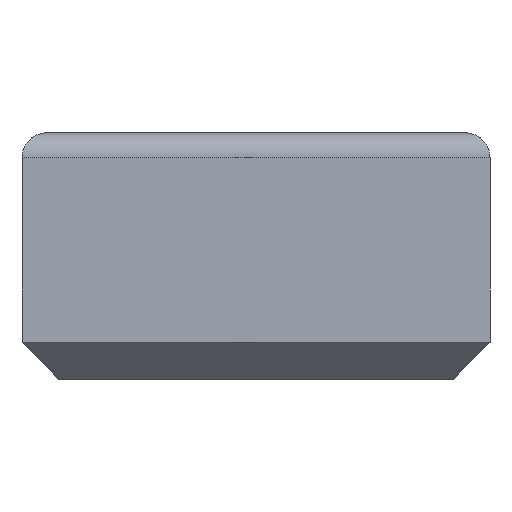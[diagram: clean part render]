
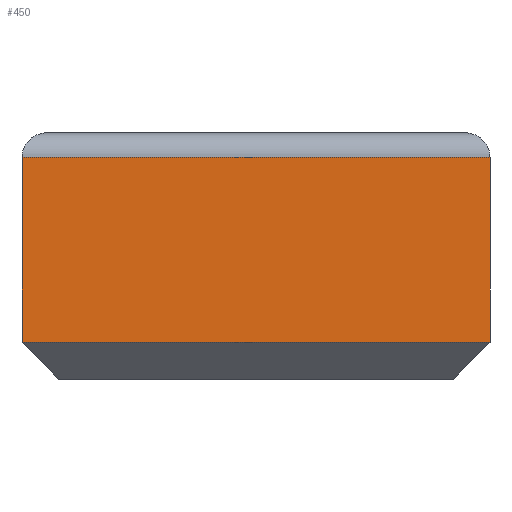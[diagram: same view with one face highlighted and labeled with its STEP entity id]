
A CAD part, front view. The second image highlights one B-rep face of the part: STEP entity #450.
In plain terms, the highlighted planar face has unit normal (0, -1, 0).
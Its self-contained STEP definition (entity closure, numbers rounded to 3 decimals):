
#292 = CARTESIAN_POINT ( 'NONE',  ( 38., 0., 3. ) ) ;
#450 = ADVANCED_FACE ( 'NONE', ( #4224 ), #1323, .T. ) ;
#588 = CARTESIAN_POINT ( 'NONE',  ( 0., 0., 0. ) ) ;
#597 = EDGE_CURVE ( 'NONE', #2358, #3067, #843, .T. ) ;
#610 = CARTESIAN_POINT ( 'NONE',  ( 38., 0., 18. ) ) ;
#688 = CARTESIAN_POINT ( 'NONE',  ( 0., 0., 3. ) ) ;
#748 = CARTESIAN_POINT ( 'NONE',  ( 19., 0., 3. ) ) ;
#769 = LINE ( 'NONE', #748, #3446 ) ;
#843 = LINE ( 'NONE', #2984, #1665 ) ;
#879 = DIRECTION ( 'NONE',  ( 1., 0., 0. ) ) ;
#962 = ORIENTED_EDGE ( 'NONE', *, *, #597, .F. ) ;
#1153 = LINE ( 'NONE', #1920, #2898 ) ;
#1323 = PLANE ( 'NONE',  #2811 ) ;
#1409 = EDGE_CURVE ( 'NONE', #2210, #2135, #769, .T. ) ;
#1665 = VECTOR ( 'NONE', #879, 1000. ) ;
#1908 = EDGE_LOOP ( 'NONE', ( #2653, #962, #3512, #2078 ) ) ;
#1920 = CARTESIAN_POINT ( 'NONE',  ( 0., 0., 10.5 ) ) ;
#1978 = DIRECTION ( 'NONE',  ( 0., 0., -1. ) ) ;
#2032 = DIRECTION ( 'NONE',  ( 0., 0., 1. ) ) ;
#2078 = ORIENTED_EDGE ( 'NONE', *, *, #1409, .T. ) ;
#2135 = VERTEX_POINT ( 'NONE', #292 ) ;
#2210 = VERTEX_POINT ( 'NONE', #688 ) ;
#2358 = VERTEX_POINT ( 'NONE', #3986 ) ;
#2570 = VECTOR ( 'NONE', #2032, 1000. ) ;
#2653 = ORIENTED_EDGE ( 'NONE', *, *, #3890, .T. ) ;
#2685 = LINE ( 'NONE', #3744, #2570 ) ;
#2811 = AXIS2_PLACEMENT_3D ( 'NONE', #588, #4041, #1978 ) ;
#2898 = VECTOR ( 'NONE', #2948, 1000. ) ;
#2948 = DIRECTION ( 'NONE',  ( 0., 0., 1. ) ) ;
#2984 = CARTESIAN_POINT ( 'NONE',  ( 19., 0., 18. ) ) ;
#3067 = VERTEX_POINT ( 'NONE', #610 ) ;
#3446 = VECTOR ( 'NONE', #3847, 1000. ) ;
#3512 = ORIENTED_EDGE ( 'NONE', *, *, #3763, .F. ) ;
#3744 = CARTESIAN_POINT ( 'NONE',  ( 38., 0., 10.5 ) ) ;
#3763 = EDGE_CURVE ( 'NONE', #2210, #2358, #1153, .T. ) ;
#3847 = DIRECTION ( 'NONE',  ( 1., 0., 0. ) ) ;
#3890 = EDGE_CURVE ( 'NONE', #2135, #3067, #2685, .T. ) ;
#3986 = CARTESIAN_POINT ( 'NONE',  ( 0., 0., 18. ) ) ;
#4041 = DIRECTION ( 'NONE',  ( 0., -1., 0. ) ) ;
#4224 = FACE_OUTER_BOUND ( 'NONE', #1908, .T. ) ;
